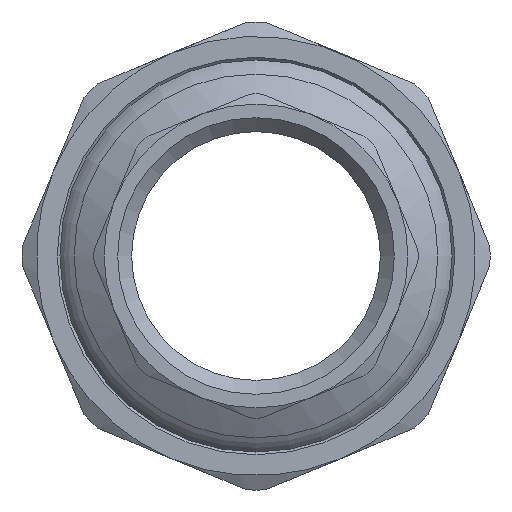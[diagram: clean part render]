
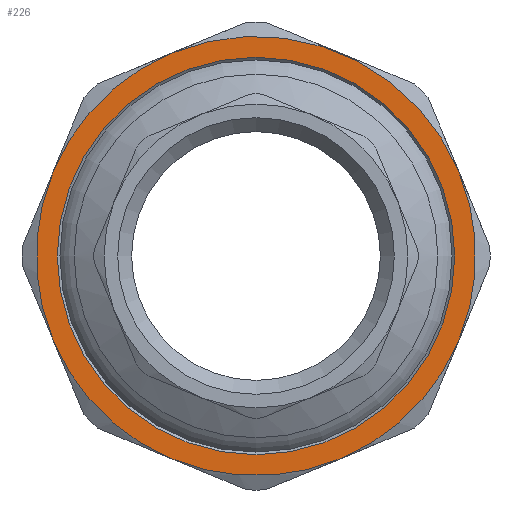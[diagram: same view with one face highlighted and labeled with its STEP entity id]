
A CAD part, front view. The second image highlights one B-rep face of the part: STEP entity #226.
In plain terms, the highlighted planar face has unit normal (0, -1, 0).
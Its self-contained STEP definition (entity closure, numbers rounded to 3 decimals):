
#226=ADVANCED_FACE('',(#1484,#1486),#1488,.T.);
#1484=FACE_BOUND('',#1485,.T.);
#1485=EDGE_LOOP('',(#2818,#2819,#2820,#2821,#2822,#2823,#2824));
#1486=FACE_BOUND('',#1487,.T.);
#1487=EDGE_LOOP('',(#2825));
#1488=PLANE('',#1489);
#1489=AXIS2_PLACEMENT_3D('',#1490,#1491,#1492);
#1490=CARTESIAN_POINT('',(0.,-30.,0.));
#1491=DIRECTION('',(0.,-1.,0.));
#1492=DIRECTION('',(1.,0.,0.));
#2818=ORIENTED_EDGE('',*,*,#3486,.T.);
#2819=ORIENTED_EDGE('',*,*,#3485,.T.);
#2820=ORIENTED_EDGE('',*,*,#3482,.T.);
#2821=ORIENTED_EDGE('',*,*,#3481,.T.);
#2822=ORIENTED_EDGE('',*,*,#3483,.T.);
#2823=ORIENTED_EDGE('',*,*,#3484,.T.);
#2824=ORIENTED_EDGE('',*,*,#3487,.T.);
#2825=ORIENTED_EDGE('',*,*,#3511,.T.);
#3481=EDGE_CURVE('',#4276,#4283,#4349,.F.);
#3482=EDGE_CURVE('',#4302,#4276,#4350,.F.);
#3483=EDGE_CURVE('',#4283,#4294,#4351,.F.);
#3484=EDGE_CURVE('',#4294,#4332,#4352,.F.);
#3485=EDGE_CURVE('',#4316,#4302,#4353,.F.);
#3486=EDGE_CURVE('',#4324,#4316,#4354,.F.);
#3487=EDGE_CURVE('',#4332,#4324,#4355,.F.);
#3511=EDGE_CURVE('',#4399,#4399,#4400,.F.);
#4276=VERTEX_POINT('',#6929);
#4283=VERTEX_POINT('',#6999);
#4294=VERTEX_POINT('',#7081);
#4302=VERTEX_POINT('',#7155);
#4316=VERTEX_POINT('',#7282);
#4324=VERTEX_POINT('',#7356);
#4332=VERTEX_POINT('',#7430);
#4349=CIRCLE('',#7533,26.75);
#4350=CIRCLE('',#7537,26.75);
#4351=CIRCLE('',#7541,26.75);
#4352=CIRCLE('',#7545,26.75);
#4353=CIRCLE('',#7549,26.75);
#4354=CIRCLE('',#7553,26.75);
#4355=CIRCLE('',#7557,26.75);
#4399=VERTEX_POINT('',#8259);
#4400=CIRCLE('',#8260,24.2);
#6929=CARTESIAN_POINT('',(-24.714,-30.,10.237));
#6999=CARTESIAN_POINT('',(-24.714,-30.,-10.237));
#7081=CARTESIAN_POINT('',(-10.237,-30.,-24.714));
#7155=CARTESIAN_POINT('',(-10.237,-30.,24.714));
#7282=CARTESIAN_POINT('',(24.714,-30.,10.237));
#7356=CARTESIAN_POINT('',(24.714,-30.,-10.237));
#7430=CARTESIAN_POINT('',(10.237,-30.,-24.714));
#7533=AXIS2_PLACEMENT_3D('',#7534,#7535,#7536);
#7534=CARTESIAN_POINT('',(0.,-30.,0.));
#7535=DIRECTION('',(0.,1.,0.));
#7536=DIRECTION('',(-0.924,0.,-0.383));
#7537=AXIS2_PLACEMENT_3D('',#7538,#7539,#7540);
#7538=CARTESIAN_POINT('',(0.,-30.,0.));
#7539=DIRECTION('',(0.,1.,0.));
#7540=DIRECTION('',(-0.924,0.,0.383));
#7541=AXIS2_PLACEMENT_3D('',#7542,#7543,#7544);
#7542=CARTESIAN_POINT('',(0.,-30.,0.));
#7543=DIRECTION('',(0.,1.,0.));
#7544=DIRECTION('',(-0.383,0.,-0.924));
#7545=AXIS2_PLACEMENT_3D('',#7546,#7547,#7548);
#7546=CARTESIAN_POINT('',(0.,-30.,0.));
#7547=DIRECTION('',(0.,1.,0.));
#7548=DIRECTION('',(0.383,0.,-0.924));
#7549=AXIS2_PLACEMENT_3D('',#7550,#7551,#7552);
#7550=CARTESIAN_POINT('',(0.,-30.,0.));
#7551=DIRECTION('',(0.,1.,0.));
#7552=DIRECTION('',(-0.383,0.,0.924));
#7553=AXIS2_PLACEMENT_3D('',#7554,#7555,#7556);
#7554=CARTESIAN_POINT('',(0.,-30.,0.));
#7555=DIRECTION('',(0.,1.,0.));
#7556=DIRECTION('',(0.924,0.,0.383));
#7557=AXIS2_PLACEMENT_3D('',#7558,#7559,#7560);
#7558=CARTESIAN_POINT('',(0.,-30.,0.));
#7559=DIRECTION('',(0.,1.,0.));
#7560=DIRECTION('',(0.924,0.,-0.383));
#8259=CARTESIAN_POINT('',(24.2,-30.,0.));
#8260=AXIS2_PLACEMENT_3D('',#8261,#8262,#8263);
#8261=CARTESIAN_POINT('',(0.,-30.,0.));
#8262=DIRECTION('',(0.,-1.,0.));
#8263=DIRECTION('',(1.,0.,0.));
